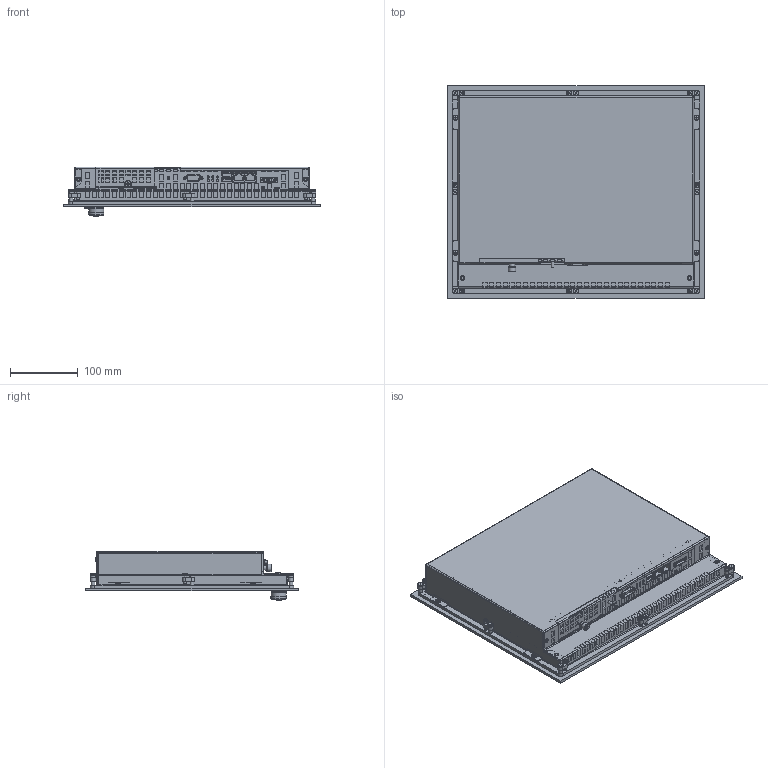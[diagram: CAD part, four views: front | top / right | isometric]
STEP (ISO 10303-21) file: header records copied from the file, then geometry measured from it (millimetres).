
FILE_DESCRIPTION((''),'2;1');
FILE_NAME('X:\0-inventor\0-3d-Teile\PC-Compo\solids\CP66xx\CP6602-0020.stp','2010-06-17T11:26:25',('christianKreuzer'),(''),'Autodesk Inventor 2011','Autodesk Inventor 2011','');
FILE_SCHEMA(('AUTOMOTIVE_DESIGN { 1 0 10303 214 1 1 1 1 }'));
Length unit declared in the file: millimetre
Products named in the file (1): CP6602-0020-STEP-Vorlage
Bounding box: 380 x 315 x 73.8 mm (x, y, z)
Volume: 4936168.9 mm3; surface area: 800345.5 mm2
Topology: 1 solids, 66 shells, 3022 faces, 8060 edges, 5231 vertices
Faces by surface type: plane 2196, cylinder 593, cone 152, torus 62, bspline 12, sphere 7
Full cylindrical faces by diameter (mm): 1.567 x2, 2.459 x4, 2.729 x3, 3 x21, 3.141 x8, 3.2 x20, 3.242 x12, 3.3 x8, 3.621 x4, 3.934 x1, 3.99 x1, 4 x29, 4.2 x4, 4.22 x1, 4.25 x15, 4.5 x20, 5.5 x8, 5.56 x1, 5.6 x2, 6.5 x7, 7 x9, 7.5 x1, 8.5 x8, 10.8 x1, 18.5 x1, 20 x1, 20.2 x1, 22.4 x1, 22.5 x1, 23 x1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
Entity records: 94987 total; most frequent: CARTESIAN_POINT 17665, ORIENTED_EDGE 15312, DIRECTION 14910, EDGE_CURVE 7656, VECTOR 5826, LINE 5826, VERTEX_POINT 5121, AXIS2_PLACEMENT_3D 4542
